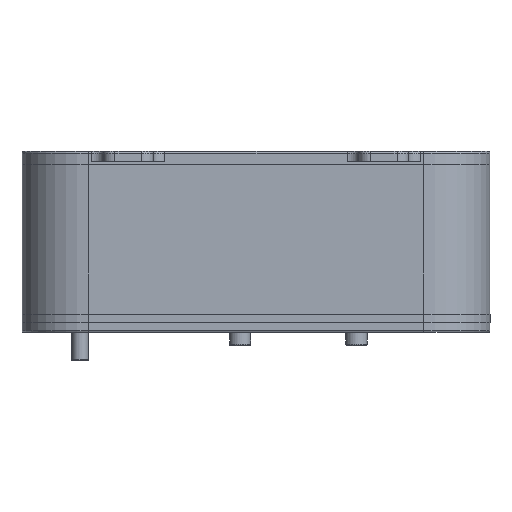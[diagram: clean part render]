
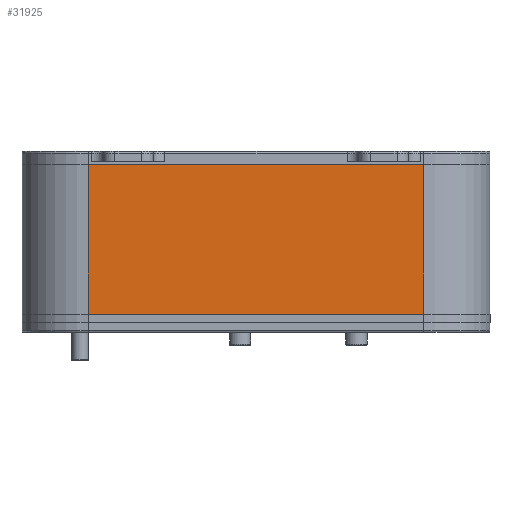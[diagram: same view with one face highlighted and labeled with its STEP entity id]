
A CAD part, left-side view. The second image highlights one B-rep face of the part: STEP entity #31925.
In plain terms, the highlighted planar face has unit normal (-1, 0, 0).
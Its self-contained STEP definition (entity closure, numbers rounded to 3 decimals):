
#31867=CARTESIAN_POINT('',(-26.222,-230.852,90.0));
#31868=VERTEX_POINT('',#31867);
#31876=CARTESIAN_POINT('',(-26.222,-230.852,0.0));
#31877=VERTEX_POINT('',#31876);
#31878=CARTESIAN_POINT('',(-26.222,-230.852,0.0));
#31879=DIRECTION('',(0.0,0.0,1.0));
#31880=VECTOR('',#31879,90.0);
#31881=LINE('',#31878,#31880);
#31882=EDGE_CURVE('',#31877,#31868,#31881,.T.);
#31895=CARTESIAN_POINT('',(-26.222,-230.852,0.0));
#31896=DIRECTION('',(-1.0,0.0,0.0));
#31897=DIRECTION('',(0.0,0.0,1.0));
#31898=AXIS2_PLACEMENT_3D('',#31895,#31896,#31897);
#31899=PLANE('',#31898);
#31900=CARTESIAN_POINT('',(-26.222,-28.852,90.0));
#31901=VERTEX_POINT('',#31900);
#31902=CARTESIAN_POINT('',(-26.222,-230.852,90.0));
#31903=DIRECTION('',(0.0,1.0,0.0));
#31904=VECTOR('',#31903,202.);
#31905=LINE('',#31902,#31904);
#31906=EDGE_CURVE('',#31868,#31901,#31905,.T.);
#31907=ORIENTED_EDGE('',*,*,#31906,.T.);
#31908=CARTESIAN_POINT('',(-26.222,-28.852,0.0));
#31909=VERTEX_POINT('',#31908);
#31910=CARTESIAN_POINT('',(-26.222,-28.852,0.0));
#31911=DIRECTION('',(0.0,0.0,1.0));
#31912=VECTOR('',#31911,90.0);
#31913=LINE('',#31910,#31912);
#31914=EDGE_CURVE('',#31909,#31901,#31913,.T.);
#31915=ORIENTED_EDGE('',*,*,#31914,.F.);
#31916=CARTESIAN_POINT('',(-26.222,-230.852,0.0));
#31917=DIRECTION('',(0.0,1.0,0.0));
#31918=VECTOR('',#31917,202.);
#31919=LINE('',#31916,#31918);
#31920=EDGE_CURVE('',#31877,#31909,#31919,.T.);
#31921=ORIENTED_EDGE('',*,*,#31920,.F.);
#31922=ORIENTED_EDGE('',*,*,#31882,.T.);
#31923=EDGE_LOOP('',(#31907,#31915,#31921,#31922));
#31924=FACE_OUTER_BOUND('',#31923,.T.);
#31925=ADVANCED_FACE('',(#31924),#31899,.T.);
